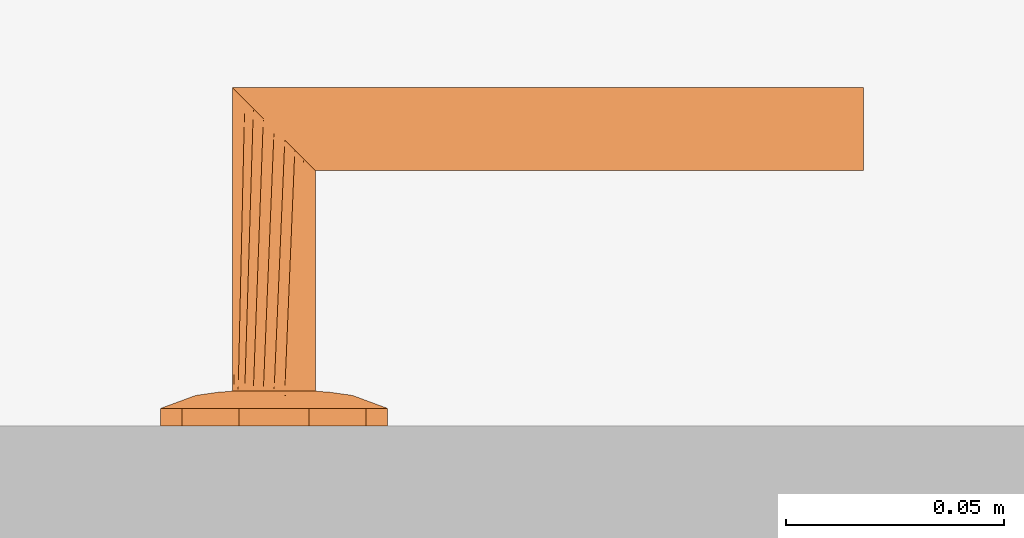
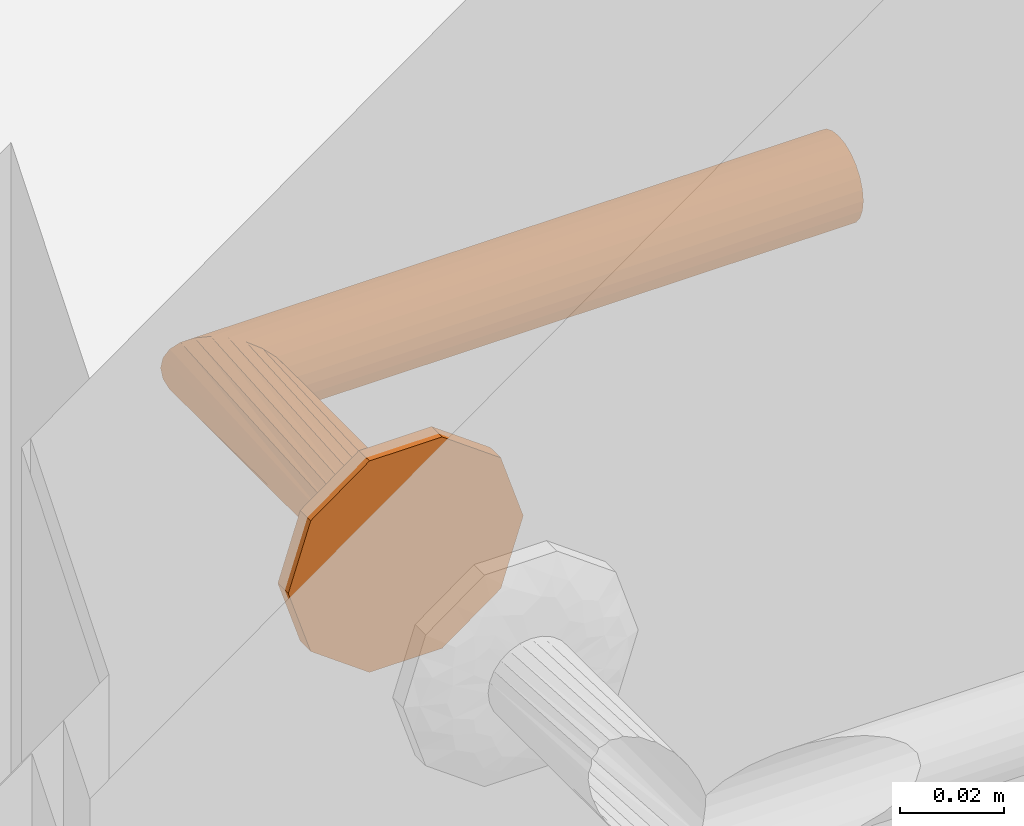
# One storey, part 50 of 55: 1 proxy.
"""IFC2X3 building model written with IfcOpenShell, lengths in millimetres."""

from ifc_helpers import new_model, entity, si_unit, converted_unit, direction, frame, origin, place, context, subcontext, project, spatial, faceted_brep, source, transform, mapped, material, type_object, type_shapes, element, save


model = new_model("IFC2X3")

# Units and contexts
model_context = context("Model", 3, precision=0.01, world=origin(), true_north=direction((6.123233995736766e-17, 1.0)))
plan_context = context("Plan", 3, precision=0.01, world=origin(), true_north=direction((6.123233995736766e-17, 1.0)))
body_context = subcontext(model_context, "Body", "Model", "MODEL_VIEW")
ifc_project = project(units=[si_unit("LENGTHUNIT", "METRE", prefix="MILLI"), converted_unit("PLANEANGLEUNIT", "DEGREE", entity("IfcPlaneAngleMeasure", 0.017453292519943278), si_unit("PLANEANGLEUNIT", "RADIAN"), dimensions=[0, 0, 0, 0, 0, 0, 0]), si_unit("AREAUNIT", "SQUARE_METRE")], contexts=[model_context, plan_context])

# Site, building, storey
site_placement = place(None, origin())
site = spatial("IfcSite", under=ifc_project, at=site_placement, Name="Default", CompositionType="ELEMENT")
building_placement = place(site_placement, origin())
building = spatial("IfcBuilding", under=site, at=building_placement, CompositionType="ELEMENT")
storey_placement = place(building_placement, origin())
storey = spatial("IfcBuildingStorey", under=building, at=storey_placement, Name="1K", CompositionType="ELEMENT", Elevation=0.0)

# Proxy
ifc_material = material(Name="<Unnamed>")
building_element_proxy_type = type_object("IfcBuildingElementProxyType", Name="Door-handle_Lever_ABLOY_INOXI_3-19ss-002_RT:Default", PredefinedType="NOTDEFINED", material=ifc_material)
shared_shape = source(origin(), body_context, "Body", "Brep", [
    faceted_brep([(0.0, 0.0, 0.0), (21.034441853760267, -15.282416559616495, 0.0), (14.534441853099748, -20.00494299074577, 0.0), (8.034441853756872, -24.72746942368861, 0.0), (0.0, -24.72746942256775, 0.0), (23.51722092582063, -7.6412082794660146, 0.0), (26.0, 0.0, 0.0), (-8.034441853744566, -24.727469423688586, 0.0), (-14.534441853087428, -20.00494299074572, 0.0), (-21.03444185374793, -15.282416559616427, 0.0), (-23.517220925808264, -7.641208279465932, 0.0), (-26.0, 0.0, 0.0), (-23.517220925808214, 7.641208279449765, 0.0), (23.517220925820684, 7.641208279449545, 0.0), (21.034441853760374, 15.282416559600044, 0.0), (14.53444185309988, 20.00494299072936, 0.0), (8.034441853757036, 24.72746942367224, 0.0), (-21.034441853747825, 15.282416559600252, 0.0), (-14.53444185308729, 20.004942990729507, 0.0), (-8.0344418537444, 24.72746942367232, 0.0), (0.0, 24.72746942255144, 0.0), (0.0, 0.0, 8.0), (4.7500000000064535, -8.227241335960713, 8.0), (5.937500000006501, -6.170431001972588, 8.0), (7.125000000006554, -4.113620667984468, 8.0), (8.312500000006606, -2.0568103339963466, 8.0), (9.500000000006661, 0.0, 8.0), (8.312500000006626, 2.056810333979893, 8.0), (2.3750000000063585, -8.227241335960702, 8.0), (0.0, -8.227241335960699, 8.0), (-2.3749999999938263, -8.227241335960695, 8.0), (-4.749999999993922, -8.227241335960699, 8.0), (-5.937499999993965, -6.170431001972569, 8.0), (-7.124999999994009, -4.113620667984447, 8.0), (-8.312499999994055, -2.056810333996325, 8.0), (-9.499999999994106, 0.0, 8.0), (7.125000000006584, 4.113620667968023, 8.0), (5.937500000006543, 6.170431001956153, 8.0), (4.750000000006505, 8.227241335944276, 8.0), (2.3750000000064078, 8.22724133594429, 8.0), (-8.31249999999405, 2.0568103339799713, 8.0), (-7.12499999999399, 4.113620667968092, 8.0), (-5.9374999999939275, 6.170431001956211, 8.0), (-4.74999999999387, 8.227241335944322, 8.0), (0.0, 8.227241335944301, 8.0), (-2.374999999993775, 8.227241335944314, 8.0), (-22.488765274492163, -10.806469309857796, 4.030771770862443), (-16.663919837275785, -7.932665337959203, 6.877259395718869), (-20.643071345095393, -6.292822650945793, 5.929480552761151), (-12.50457926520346, -5.179566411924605, 7.774932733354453), (-16.764060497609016, -3.820257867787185, 7.1747985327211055), (-9.071726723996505, -10.311606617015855, 7.7520782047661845), (-11.963426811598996, -8.625290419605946, 7.618343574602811), (-11.979136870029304, -13.678312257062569, 6.945778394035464), (5.7585542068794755, -20.96753300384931, 5.871476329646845), (0.0, -24.72746942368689, 4.030771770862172), (8.03444185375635, -24.727469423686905, 4.030771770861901), (16.66391982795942, -7.932665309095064, 6.877259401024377), (22.488765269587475, -10.806469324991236, 4.03077177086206), (20.64307133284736, -6.29282258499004, 5.929480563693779), (14.534441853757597, -20.004942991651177, 4.030771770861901), (9.499431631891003, -18.64368355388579, 6.154325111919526), (-15.783149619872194, -11.991003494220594, 6.50080018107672), (-21.034441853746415, -15.282416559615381, 4.030771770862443), (-14.53444185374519, -20.00494299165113, 4.030771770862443), (-23.012042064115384, 0.0, 5.135401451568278), (-23.943088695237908, -6.330522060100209, 4.030771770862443), (11.96342678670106, -8.62529049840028, 7.618343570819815), (12.504579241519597, -5.179566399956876, 7.774932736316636), (16.764060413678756, -3.8202578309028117, 7.17479855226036), (15.783149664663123, -11.991003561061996, 6.50080015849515), (17.985351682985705, 0.0, 6.993737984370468), (23.012042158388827, 0.0, 5.135401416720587), (8.661516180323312, -10.478936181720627, 7.768126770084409), (-8.03444185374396, -24.727469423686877, 4.030771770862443), (-3.3573143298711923, -21.197247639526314, 5.971427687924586), (-9.941915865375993, -17.061976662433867, 6.522757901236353), (-5.973257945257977, -16.430139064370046, 7.110979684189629), (-7.711266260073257, -12.760344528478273, 7.594456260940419), (11.979136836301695, -13.678312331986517, 6.945778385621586), (7.511307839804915, -13.358932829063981, 7.529187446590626), (5.953298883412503, -16.50608604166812, 7.096344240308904), (-1.5654593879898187, -15.307443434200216, 7.519134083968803), (-7.784980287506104, -20.476295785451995, 5.812837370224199), (2.8135289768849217, -17.76392260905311, 6.993737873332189), (-17.98535168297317, 0.0, 6.993737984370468), (-26.0, 0.0, 4.030771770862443), (-23.51722092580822, -7.641208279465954, 4.030771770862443), (23.943088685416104, -6.33052209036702, 4.030771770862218), (24.308823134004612, -5.204907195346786, 4.030771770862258), (26.0, 0.0, 4.030771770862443), (21.03444185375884, -15.282416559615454, 4.030771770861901), (22.617646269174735, -10.40981439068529, 4.030771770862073), (22.488765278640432, 10.806469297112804, 4.030771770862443), (16.66391984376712, 7.932665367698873, 6.877259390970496), (20.643071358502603, 6.292822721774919, 5.929480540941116), (12.504579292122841, 5.179566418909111, 7.774932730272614), (16.764060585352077, 3.8202579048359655, 7.174798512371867), (9.07172672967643, 10.31160659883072, 7.752078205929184), (11.963426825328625, 8.62529034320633, 7.618343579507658), (11.979136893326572, 13.67831220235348, 6.9457784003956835), (-5.758554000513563, 20.96753314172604, 5.8714763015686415), (0.0, 24.72746942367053, 4.030771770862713), (-8.03444185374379, 24.72746942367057, 4.030771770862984), (-16.663919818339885, 7.932665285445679, 6.877259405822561), (-22.48876526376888, 10.806469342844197, 4.030771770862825), (-20.643071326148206, 6.2928225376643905, 5.929480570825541), (-14.534441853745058, 20.004942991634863, 4.030771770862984), (-9.499431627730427, 18.643683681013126, 6.154325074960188), (15.783149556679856, 11.991003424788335, 6.5008002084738), (21.03444185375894, 15.282416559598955, 4.030771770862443), (14.534441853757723, 20.004942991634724, 4.030771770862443), (23.943088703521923, 6.330522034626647, 4.030771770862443), (-11.96342675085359, 8.625290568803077, 7.618343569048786), (-12.504579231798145, 5.179566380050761, 7.77493273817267), (-16.764060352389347, 3.820257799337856, 7.174798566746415), (-15.78314967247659, 11.991003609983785, 6.500800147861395), (-8.661516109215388, 10.478936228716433, 7.768126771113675), (8.034441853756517, 24.727469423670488, 4.030771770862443), (3.3573144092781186, 21.197247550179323, 5.971427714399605), (9.941915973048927, 17.061976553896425, 6.522757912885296), (5.9732581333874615, 16.430139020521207, 7.110979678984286), (7.711266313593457, 12.760344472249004, 7.5944562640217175), (-11.979136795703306, 13.678312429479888, 6.945778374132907), (-7.511307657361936, 13.358932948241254, 7.5291874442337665), (-5.9532988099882, 16.50608628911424, 7.096344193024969), (1.5654596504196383, 15.3074431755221, 7.519134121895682), (7.784980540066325, 20.476295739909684, 5.812837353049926), (-2.81352881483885, 17.76392263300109, 6.993737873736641), (23.51722092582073, 7.6412082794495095, 4.030771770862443), (-23.94308867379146, 6.330522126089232, 4.030771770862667), (-24.308823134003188, 5.20490719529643, 4.030771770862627), (-21.034441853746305, 15.282416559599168, 4.030771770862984), (-22.617646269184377, 10.409814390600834, 4.0307717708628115)], [[[0, 1, 2]], [[0, 2, 3]], [[0, 3, 4]], [[0, 5, 1]], [[0, 6, 5]], [[0, 4, 7]], [[0, 7, 8]], [[0, 8, 9]], [[0, 9, 10]], [[0, 10, 11]], [[0, 11, 12]], [[0, 13, 6]], [[0, 14, 13]], [[0, 15, 14]], [[0, 16, 15]], [[0, 12, 17]], [[0, 17, 18]], [[0, 18, 19]], [[0, 19, 20]], [[0, 20, 16]], [[21, 22, 23]], [[21, 23, 24]], [[21, 24, 25]], [[21, 25, 26]], [[21, 26, 27]], [[21, 28, 22]], [[21, 29, 28]], [[21, 30, 29]], [[21, 31, 30]], [[21, 32, 31]], [[21, 33, 32]], [[21, 34, 33]], [[21, 35, 34]], [[21, 27, 36]], [[21, 36, 37]], [[21, 37, 38]], [[21, 38, 39]], [[21, 40, 35]], [[21, 41, 40]], [[21, 42, 41]], [[21, 43, 42]], [[21, 39, 44]], [[21, 44, 45]], [[21, 45, 43]], [[46, 47, 48]], [[47, 49, 50]], [[49, 33, 34]], [[51, 52, 53]], [[49, 52, 33]], [[48, 47, 50]], [[54, 55, 56]], [[57, 58, 59]], [[56, 60, 61]], [[62, 63, 64]], [[65, 66, 48]], [[67, 57, 68]], [[68, 69, 25]], [[57, 67, 70]], [[69, 26, 25]], [[62, 53, 52]], [[71, 69, 72]], [[67, 23, 73]], [[74, 55, 75]], [[76, 77, 78]], [[79, 60, 70]], [[69, 59, 72]], [[80, 81, 61]], [[77, 30, 78]], [[82, 30, 77]], [[28, 80, 22]], [[77, 83, 75]], [[75, 82, 77]], [[55, 84, 75]], [[85, 50, 35]], [[24, 68, 25]], [[82, 84, 29]], [[84, 82, 75]], [[31, 78, 30]], [[82, 29, 30]], [[34, 35, 50]], [[52, 49, 47]], [[62, 52, 47]], [[34, 50, 49]], [[53, 78, 51]], [[32, 33, 52]], [[85, 65, 50]], [[66, 65, 86]], [[67, 68, 24]], [[77, 76, 83]], [[65, 48, 50]], [[63, 62, 46]], [[48, 66, 87, 46]], [[62, 47, 46]], [[69, 68, 57]], [[80, 73, 22]], [[70, 67, 79]], [[67, 24, 23]], [[72, 88, 89, 90]], [[69, 71, 26]], [[59, 69, 57]], [[61, 60, 79]], [[62, 64, 53]], [[91, 58, 70]], [[72, 59, 88]], [[57, 70, 58]], [[59, 58, 92]], [[80, 61, 79]], [[91, 70, 60]], [[61, 81, 54]], [[73, 80, 79]], [[28, 84, 81]], [[67, 73, 79]], [[29, 84, 28]], [[22, 73, 23]], [[51, 31, 32]], [[76, 78, 53]], [[53, 64, 76]], [[83, 64, 74]], [[64, 83, 76]], [[75, 83, 74]], [[31, 51, 78]], [[52, 51, 32]], [[28, 81, 80]], [[54, 81, 84]], [[55, 54, 84]], [[61, 54, 56]], [[93, 94, 95]], [[94, 96, 97]], [[96, 36, 27]], [[98, 99, 100]], [[96, 99, 36]], [[95, 94, 97]], [[101, 102, 103]], [[104, 105, 106]], [[103, 107, 108]], [[109, 110, 111]], [[72, 112, 95]], [[113, 104, 114]], [[114, 115, 40]], [[104, 113, 116]], [[115, 35, 40]], [[109, 100, 99]], [[85, 115, 65]], [[113, 42, 117]], [[118, 102, 119]], [[120, 121, 122]], [[123, 107, 116]], [[115, 106, 65]], [[124, 125, 108]], [[121, 39, 122]], [[126, 39, 121]], [[45, 124, 43]], [[121, 127, 119]], [[119, 126, 121]], [[102, 128, 119]], [[71, 97, 26]], [[41, 114, 40]], [[126, 128, 44]], [[128, 126, 119]], [[38, 122, 39]], [[126, 44, 39]], [[27, 26, 97]], [[99, 96, 94]], [[109, 99, 94]], [[27, 97, 96]], [[100, 122, 98]], [[37, 36, 99]], [[71, 72, 97]], [[112, 72, 90]], [[113, 114, 41]], [[121, 120, 127]], [[72, 95, 97]], [[110, 109, 93]], [[95, 112, 129, 93]], [[109, 94, 93]], [[115, 114, 104]], [[124, 117, 43]], [[116, 113, 123]], [[113, 41, 42]], [[65, 130, 131, 86]], [[115, 85, 35]], [[106, 115, 104]], [[108, 107, 123]], [[109, 111, 100]], [[132, 105, 116]], [[65, 106, 130]], [[104, 116, 105]], [[106, 105, 133]], [[124, 108, 123]], [[132, 116, 107]], [[108, 125, 101]], [[117, 124, 123]], [[45, 128, 125]], [[113, 117, 123]], [[44, 128, 45]], [[43, 117, 42]], [[98, 38, 37]], [[120, 122, 100]], [[100, 111, 120]], [[127, 111, 118]], [[111, 127, 120]], [[119, 127, 118]], [[38, 98, 122]], [[99, 98, 37]], [[45, 125, 124]], [[101, 125, 128]], [[102, 101, 128]], [[108, 101, 103]], [[7, 74, 64, 63, 9, 8]], [[10, 9, 63, 46, 87, 66, 86, 11]], [[6, 90, 89, 88, 92, 1, 5]], [[1, 58, 91]], [[74, 7, 4, 3, 56, 55]], [[60, 56, 3, 2, 1, 91]], [[1, 92, 58]], [[14, 110, 93, 129, 112, 90, 6, 13]], [[111, 110, 14, 15, 16, 118]], [[11, 86, 131, 130, 133, 17, 12]], [[17, 105, 132]], [[118, 16, 20, 19, 103, 102]], [[107, 103, 19, 18, 17, 132]], [[17, 133, 105]], [[59, 92, 88]], [[106, 133, 130]]]),
    faceted_brep([(4.7499999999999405, -8.22724133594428, 8.0), (2.4587809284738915, -9.176295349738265, 8.0), (0.0, -9.499999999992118, 8.0), (-2.4587809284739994, -9.176295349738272, 8.0), (-4.7500000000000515, -8.227241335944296, 8.0), (-6.717514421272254, -6.717514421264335, 8.0), (-8.227241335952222, -4.74999999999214, 8.0), (-9.176295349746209, -2.4587809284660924, 8.0), (-9.500000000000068, 0.0, 8.0), (-9.176295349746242, 2.458780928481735, 8.0), (-8.227241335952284, 4.750000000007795, 8.0), (-6.717514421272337, 6.717514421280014, 8.0), (-4.750000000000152, 8.227241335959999, 8.0), (-2.4587809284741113, 9.176295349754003, 8.0), (0.0, 9.500000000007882, 8.0), (2.4587809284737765, 9.176295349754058, 8.0), (4.7499999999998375, 8.227241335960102, 8.0), (6.717514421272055, 6.717514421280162, 8.0), (8.22724133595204, 4.75000000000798, 8.0), (9.17629534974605, 2.458780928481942, 8.0), (9.499999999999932, 0.0, 8.0), (9.17629534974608, -2.458780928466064, 8.0), (8.227241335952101, -4.749999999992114, 8.0), (6.717514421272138, -6.7175144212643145, 8.0), (-8.227241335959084, 4.7499999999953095, 59.772758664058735), (-6.717514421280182, 6.7175144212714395, 61.282485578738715), (-9.176295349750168, 2.458780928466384, 58.82370465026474), (-4.750000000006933, 8.227241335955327, 63.25000000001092), (-2.4587809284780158, 9.176295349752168, 65.54121907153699), (-9.500000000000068, 0.0, 58.50000000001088), (0.0, 9.50000000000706, 68.0), (4.750000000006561, 8.227241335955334, 72.75000000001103), (2.4587809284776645, 9.17629534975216, 70.45878092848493), (6.717514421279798, 6.7175144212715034, 74.71751442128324), (8.22724133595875, 4.749999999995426, 76.22724133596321), (9.17629534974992, 2.458780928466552, 77.17629534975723), (9.499999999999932, 0.0, 77.50000000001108), (9.176295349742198, -2.4587809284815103, 77.1762953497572), (8.227241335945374, -4.750000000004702, 76.22724133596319), (6.7175144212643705, -6.717514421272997, 74.7175144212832), (4.749999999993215, -8.227241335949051, 72.75000000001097), (2.4587809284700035, -9.17629534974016, 70.45878092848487), (0.0, -9.49999999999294, 68.0), (-2.4587809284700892, -9.176295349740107, 65.54121907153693), (-4.749999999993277, -8.227241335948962, 63.250000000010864), (-6.717514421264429, -6.717514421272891, 61.282485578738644), (-9.176295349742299, -2.458780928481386, 58.8237046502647), (-8.227241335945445, -4.750000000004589, 59.77275866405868), (-135.0, -9.176295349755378, 70.4587809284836), (-135.0, -8.227241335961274, 72.75000000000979), (-135.0, -6.717514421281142, 74.71751442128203), (-135.0, -4.750000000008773, 76.22724133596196), (-135.0, -2.4587809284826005, 77.17629534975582), (-135.0, 0.0, 77.5000000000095), (-135.0, 2.4587809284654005, 77.17629534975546), (-135.0, 4.749999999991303, 76.22724133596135), (-135.0, 6.717514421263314, 74.71751442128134), (-135.0, 8.227241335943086, 72.75000000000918), (-135.0, 9.17629534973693, 70.45878092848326), (-135.0, 9.499999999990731, 68.0), (-135.0, 9.17629534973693, 65.54121907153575), (-135.0, 8.227241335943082, 63.250000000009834), (-135.0, 6.717514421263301, 61.28248557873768), (-135.0, 4.749999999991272, 59.772758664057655), (-135.0, 2.458780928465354, 58.823704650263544), (-135.0, 0.0, 58.50000000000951), (-135.0, -2.458780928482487, 58.82370465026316), (-135.0, -4.750000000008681, 59.772758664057), (-135.0, -6.7175144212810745, 61.28248557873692), (-135.0, -8.227241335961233, 63.25000000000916), (-135.0, -9.176295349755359, 65.54121907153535), (-135.0, -9.500000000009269, 68.0)], [[[0, 1, 2, 3, 4, 5, 6, 7, 8, 9, 10, 11, 12, 13, 14, 15, 16, 17, 18, 19, 20, 21, 22, 23]], [[24, 25, 11, 10]], [[26, 24, 10, 9]], [[14, 27, 28]], [[13, 27, 14]], [[25, 27, 13]], [[29, 26, 9, 8]], [[12, 11, 25]], [[25, 13, 12]], [[28, 30, 15]], [[31, 17, 32]], [[33, 18, 31]], [[19, 34, 35]], [[33, 34, 19]], [[20, 19, 35, 36]], [[16, 15, 30]], [[14, 28, 15]], [[19, 18, 33]], [[17, 31, 18]], [[17, 16, 32]], [[30, 32, 16]], [[20, 36, 37, 21]], [[38, 21, 37]], [[22, 39, 40]], [[38, 39, 21]], [[23, 40, 41]], [[39, 22, 21]], [[1, 42, 43]], [[42, 1, 0]], [[23, 41, 0]], [[23, 22, 40]], [[41, 42, 0]], [[44, 45, 3]], [[43, 44, 2]], [[46, 29, 8, 7]], [[47, 46, 7, 6]], [[45, 47, 6, 5]], [[45, 4, 3]], [[3, 2, 44]], [[5, 4, 45]], [[43, 2, 1]], [[48, 49, 50, 51, 52, 53, 54, 55, 56, 57, 58, 59, 60, 61, 62, 63, 64, 65, 66, 67, 68, 69, 70, 71]], [[64, 63, 24, 26]], [[65, 64, 26, 29]], [[61, 60, 28, 27]], [[62, 61, 27, 25]], [[63, 62, 25, 24]], [[59, 30, 28, 60]], [[57, 56, 33, 31]], [[58, 57, 31, 32]], [[54, 53, 36, 35]], [[55, 54, 35, 34]], [[56, 55, 34, 33]], [[32, 30, 59, 58]], [[52, 51, 38, 37]], [[53, 52, 37, 36]], [[49, 48, 41, 40]], [[50, 49, 40, 39]], [[51, 50, 39, 38]], [[42, 41, 48, 71]], [[69, 68, 45, 44]], [[70, 69, 44, 43]], [[66, 65, 29, 46]], [[67, 66, 46, 47]], [[68, 67, 47, 45]], [[42, 71, 70, 43]]]),
])
type_shapes(building_element_proxy_type, [shared_shape])
proxy_placement = place(storey_placement, frame((12800.0, 4129.999959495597, 1000.0), z_axis=(0.0, 1.0, 0.0), x_axis=(-1.0, 0.0, 0.0)))
element("IfcBuildingElementProxy", 1, at=proxy_placement, inside=storey, type_object=building_element_proxy_type, material=ifc_material, Name="Door-handle_Lever_ABLOY_INOXI_3-19ss-002_RT:Default", ObjectType="Door-handle_Lever_ABLOY_INOXI_3-19ss-002_RT:Default", context=body_context, shape_type="MappedRepresentation", body=[
    mapped(shared_shape, transform((0.0, 0.0, 0.0), scale=1.0)),
])

save(model, "model.ifc")
